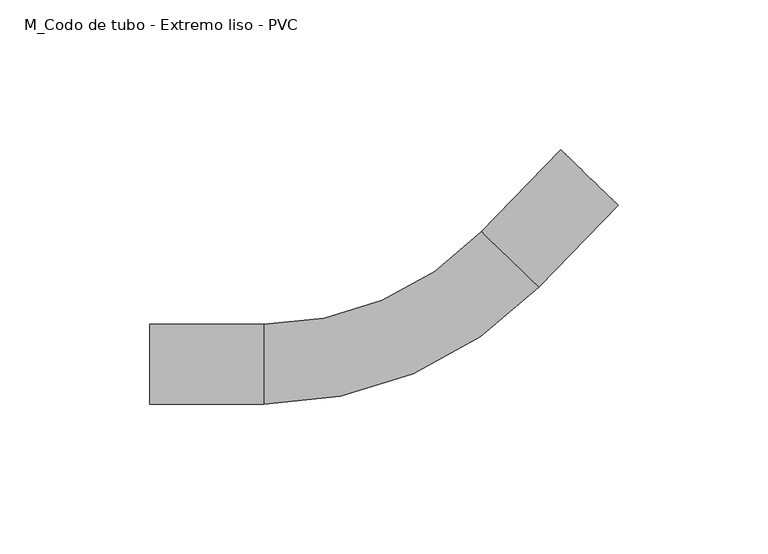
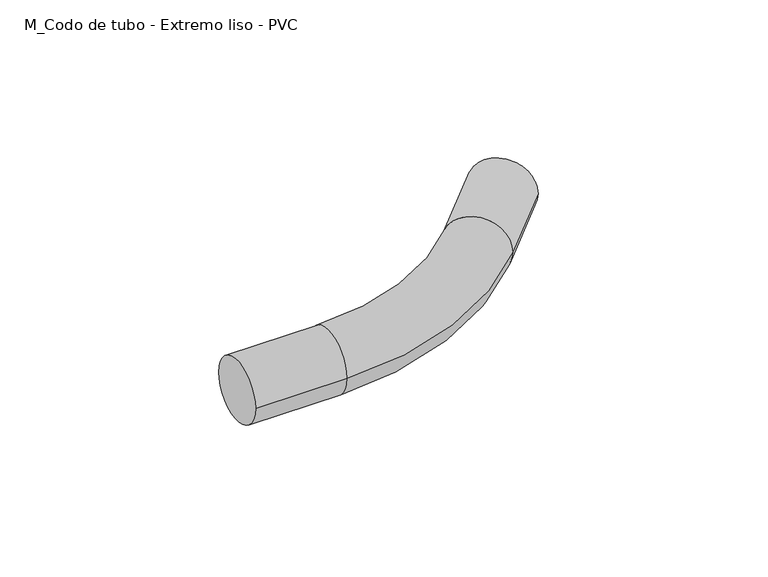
"""IFC4 building model written with IfcOpenShell, lengths in millimetres: cable carrier fitting geometry, M_Codo de tubo - Extremo liso - PVC : CODO ILUMINACION."""

from ifc_helpers import new_model, si_unit, point, frame, origin, place, context, project, spatial, circle_curve, ellipse_curve, trimmed, source, transform, mapped, element, save
from ifc_brep_helpers import plane_surface, cylinder_surface, revolved_surface, advanced_brep


def m_codo_de_tubo_extremo_liso_pvc_f4916731(model_context):
    return source(origin(), model_context, "Body", "AdvancedBrep", [
        advanced_brep(
        [(-86.6174715, -13.335, 0.0), (-86.6174715, 13.335, 0.0), (-48.5174715, -13.335, 0.0), (-48.5174715, 13.335, 0.0), (24.1106714, 44.1638176, 0.0), (43.2954639, 25.6372789, 0.0), (69.7619478, 53.0441253, 0.0), (50.5771554, 71.570664, 0.0)],
        [
            (0, 1, circle_curve(frame((-86.6174715, 0.0, 0.0), z_axis=(-1.0, 0.0, 0.0), x_axis=(0.0, 1.0, 0.0)), 13.335)),
            (1, 0, circle_curve(frame((-86.6174715, 0.0, 0.0), z_axis=(-1.0, 0.0, 0.0), x_axis=(0.0, 1.0, 0.0)), 13.335)),
            (0, 2),
            (2, 3, circle_curve(frame((-48.5174715, 0.0, 0.0), z_axis=(-1.0, 0.0, 0.0), x_axis=(0.0, 1.0, 0.0)), 13.335)),
            (3, 1),
            (3, 2, circle_curve(frame((-48.5174715, 0.0, 0.0), z_axis=(-1.0, 0.0, 0.0), x_axis=(0.0, 1.0, 0.0)), 13.335)),
            (4, 3, circle_curve(frame((-48.5174715, 114.3, 0.0), z_axis=(0.0, 0.0, -1.0), x_axis=(0.0, -1.0, 0.0)), 100.965)),
            (2, 5, circle_curve(frame((-48.5174715, 114.3, 0.0), z_axis=(0.0, 0.0, 1.0), x_axis=(0.0, -1.0, 0.0)), 127.635)),
            (5, 4, circle_curve(frame((33.7030677, 34.9005483, 0.0), z_axis=(-0.6946583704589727, -0.719339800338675, 0.0), x_axis=(-0.719339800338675, 0.6946583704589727, 0.0)), 13.335)),
            (4, 5, circle_curve(frame((33.7030677, 34.9005483, 0.0), z_axis=(-0.6946583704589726, -0.719339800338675, 0.0), x_axis=(-0.719339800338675, 0.6946583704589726, 0.0)), 13.335)),
            (6, 7, circle_curve(frame((60.1695516, 62.3073946, 0.0), z_axis=(0.6946583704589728, 0.7193398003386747, 0.0), x_axis=(-0.7193398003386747, 0.6946583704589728, 0.0)), 13.335)),
            (7, 6, circle_curve(frame((60.1695516, 62.3073946, 0.0), z_axis=(0.6946583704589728, 0.7193398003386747, 0.0), x_axis=(-0.7193398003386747, 0.6946583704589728, 0.0)), 13.335)),
            (5, 6),
            (7, 4),
        ],
        [
            plane_surface(frame((-86.6174715, 0.0, 0.0), z_axis=(-1.0, 0.0, 0.0), x_axis=(0.0, 0.0, 1.0))),
            cylinder_surface(frame((-86.6174715, 0.0, 0.0), z_axis=(-1.0, 0.0, 0.0), x_axis=(0.0, 1.0, 0.0)), 13.335),
            revolved_surface(trimmed(ellipse_curve(frame((-48.5174715, 0.0, 0.0), z_axis=(-1.0, 0.0, 0.0), x_axis=(0.0, 1.0, 0.0)), 13.335, 13.335), [point((-48.5174715, -13.335, 0.0))], [point((-48.5174715, 13.335, 0.0))], True, "CARTESIAN"), (-48.5174715, 114.3, 0.0), (0.0, 0.0, 1.0)),
            revolved_surface(trimmed(ellipse_curve(frame((-48.5174715, 0.0, 0.0), z_axis=(-1.0, 0.0, 0.0), x_axis=(0.0, 1.0, 0.0)), 13.335, 13.335), [point((-48.5174715, 13.335, 0.0))], [point((-48.5174715, -13.335, 0.0))], True, "CARTESIAN"), (-48.5174715, 114.3, 0.0), (0.0, 0.0, 1.0)),
            plane_surface(frame((60.1695516, 62.3073946, 0.0), z_axis=(0.6946583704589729, 0.7193398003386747, 0.0), x_axis=(0.0, 0.0, 1.0))),
            cylinder_surface(frame((33.7030677, 34.9005483, 0.0), z_axis=(-0.6946583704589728, -0.7193398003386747, 0.0), x_axis=(-0.7193398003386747, 0.6946583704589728, 0.0)), 13.335),
        ],
        [
            (0, [[1, 2]]),
            (1, [[-1, 3, 4, 5]]),
            (1, [[-2, -5, 6, -3]]),
            (2, [[7, -4, 8, 9]]),
            (3, [[-8, -6, -7, 10]]),
            (4, [[11, 12]]),
            (5, [[-9, 13, -12, 14]]),
            (5, [[-10, -14, -11, -13]]),
        ],
    ),
    ])


if __name__ == "__main__":
    model = new_model("IFC4")
    model_context = context("Model", 3, world=origin())
    ifc_project = project(units=[si_unit("LENGTHUNIT", "METRE", prefix="MILLI")], contexts=[model_context])
    site = spatial("IfcSite", under=ifc_project)
    building = spatial("IfcBuilding", under=site)
    placement = place(None, origin())
    m_codo_de_tubo_extremo_liso_pvc_shape = m_codo_de_tubo_extremo_liso_pvc_f4916731(model_context)
    element("IfcCableCarrierFitting", 1, ObjectType="M_Codo de tubo - Extremo liso - PVC : CODO ILUMINACION", at=placement, inside=building, context=model_context, shape_type="MappedRepresentation", body=[
        mapped(m_codo_de_tubo_extremo_liso_pvc_shape, transform((0.0, 0.0, 0.0), x_axis=(1.0, 0.0, 0.0), y_axis=(0.0, 1.0, 0.0), z_axis=(0.0, 0.0, 1.0))),
    ])
    save(model, "model.ifc")
